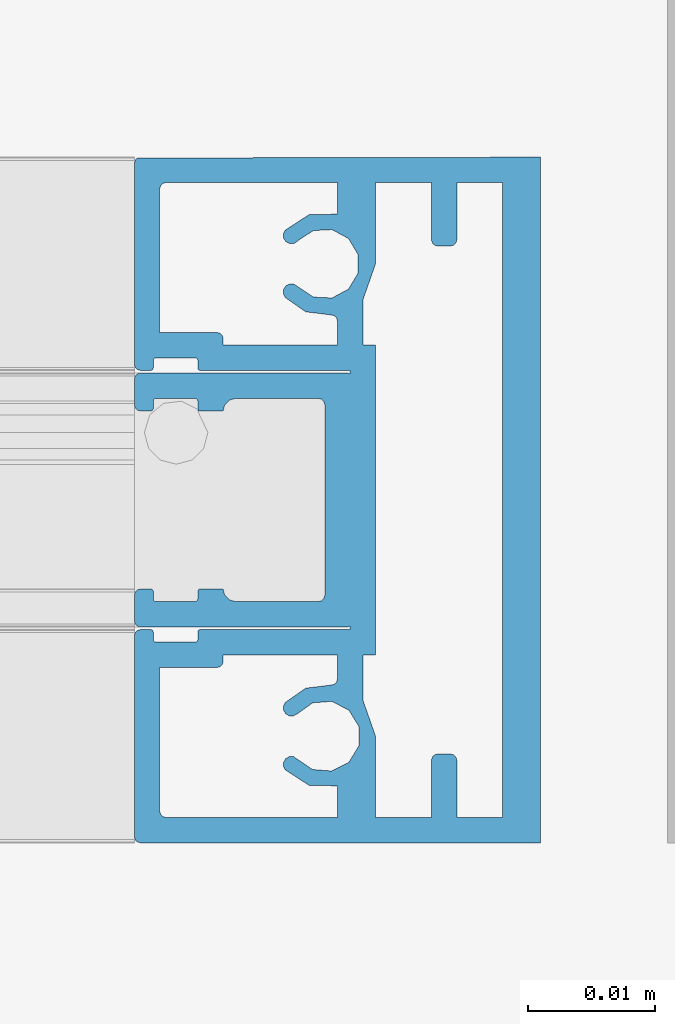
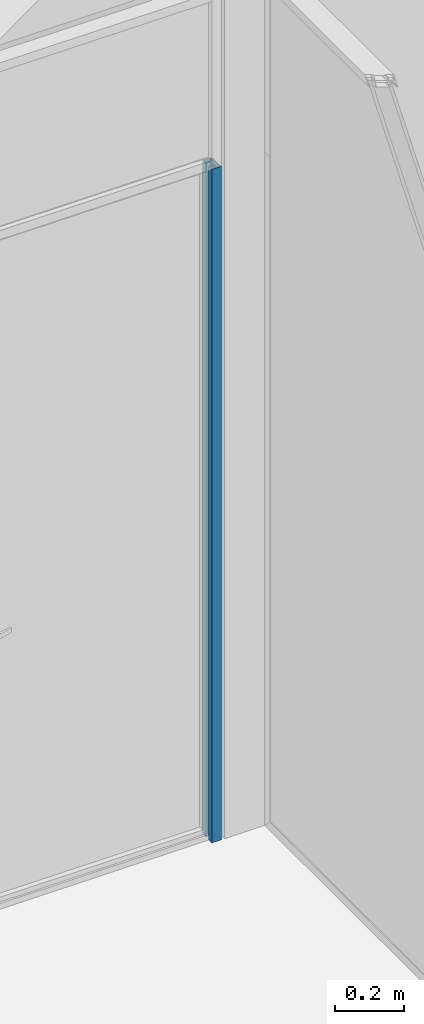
# One storey, part 40 of 387: 1 building element part, 2 elements without a shape of their own.
"""IFC2X3 building model written with IfcOpenShell, lengths in millimetres."""

import ifcopenshell
import ifcopenshell.guid

model = None  # the IFC model being written
_history = None  # IfcOwnerHistory: only IFC2X3 demands one
_inside = {}  # id of a spatial element -> (the spatial element, [elements in it])
_under = {}  # id of a project, library or spatial element -> (it, [spatial elements below it])
_declared = {}  # id of a project -> (the project, [libraries it declares])
_typed = {}  # id of a type object -> (the type object, [elements of that type])
_made_of = {}  # id of a material, layer set ... -> (it, [elements and type objects made of it])


def new_model(schema):
    """Start an empty IFC model of exactly this schema.

    Asked for "IFC4X3", IfcOpenShell would pick the latest addendum, in which some entities
    have other attributes; the version numbers below select the first issue.
    IFC2X3 requires an IfcOwnerHistory on every rooted entity: one is made here for all.
    """
    global model, _history
    if schema == "IFC4X3":
        model = ifcopenshell.file(schema_version=(4, 3, 0, 0))
    else:
        model = ifcopenshell.file(schema=schema)
    _inside.clear()
    _under.clear()
    _declared.clear()
    _typed.clear()
    _made_of.clear()
    _history = None
    if model.schema == "IFC2X3":
        org = make("IfcOrganization", Name="unknown")
        user = make(
            "IfcPersonAndOrganization",
            ThePerson=make("IfcPerson", FamilyName="unknown"),
            TheOrganization=org,
        )
        app = make(
            "IfcApplication",
            ApplicationDeveloper=org,
            Version="unknown",
            ApplicationFullName="unknown",
            ApplicationIdentifier="unknown",
        )
        _history = make(
            "IfcOwnerHistory",
            OwningUser=user,
            OwningApplication=app,
            ChangeAction="ADDED",
            CreationDate=0,
        )
    return model


def make(cls, **values):
    """One entity of the class cls with the attributes given. An attribute that is None is left unset."""
    return model.create_entity(
        cls, **{name: value for name, value in values.items() if value is not None}
    )


def entity(cls, *values):
    """Any entity or typed value of the class cls, its attributes in the order of the schema. None: left unset."""
    e = model.create_entity(cls)
    for i, value in enumerate(values):
        if value is not None:
            e[i] = value
    return e


def rooted(cls, **values):
    """An entity with a GlobalId (a new one), such as an element, a storey or a relation."""
    return make(cls, GlobalId=ifcopenshell.guid.new(), OwnerHistory=_history, **values)


def si_unit(unit_type, name, prefix=None):
    """IfcSIUnit, for example si_unit("LENGTHUNIT", "METRE", prefix="MILLI")."""
    return make("IfcSIUnit", UnitType=unit_type, Prefix=prefix, Name=name)


def converted_unit(unit_type, name, factor, base, dimensions=None, offset=None):
    """IfcConversionBasedUnit, such as the inch: factor (a typed value) times the base unit."""
    return make(
        "IfcConversionBasedUnit"
        if offset is None
        else "IfcConversionBasedUnitWithOffset",
        ConversionOffset=offset,
        Dimensions=None
        if dimensions is None
        else entity("IfcDimensionalExponents", *dimensions),
        UnitType=unit_type,
        Name=name,
        ConversionFactor=make(
            "IfcMeasureWithUnit", ValueComponent=factor, UnitComponent=base
        ),
    )


def derived_unit(unit_type, elements):
    """IfcDerivedUnit: a product of units, each with its exponent."""
    return make(
        "IfcDerivedUnit",
        Elements=[
            make("IfcDerivedUnitElement", Unit=unit, Exponent=power)
            for unit, power in elements
        ],
        UnitType=unit_type,
    )


def money_unit(currency):
    """IfcMonetaryUnit."""
    return make("IfcMonetaryUnit", Currency=currency)


def assignment(units):
    """IfcUnitAssignment: the units of a project."""
    return None if units is None else make("IfcUnitAssignment", Units=units)


def point(xyz):
    """IfcCartesianPoint."""
    return None if xyz is None else make("IfcCartesianPoint", Coordinates=xyz)


def direction(xyz):
    """IfcDirection."""
    return None if xyz is None else make("IfcDirection", DirectionRatios=xyz)


def frame(location, z_axis=None, x_axis=None):
    """IfcAxis2Placement3D, a coordinate frame: its origin and axes. An axis left out is left unset."""
    return make(
        "IfcAxis2Placement3D",
        Location=point(location),
        Axis=direction(z_axis),
        RefDirection=direction(x_axis),
    )


def origin_with_axes():
    """The frame at (0, 0, 0) with the z axis (0, 0, 1) and the x axis (1, 0, 0) written out."""
    return frame((0.0, 0.0, 0.0), z_axis=(0.0, 0.0, 1.0), x_axis=(1.0, 0.0, 0.0))


def place(relative_to, where):
    """IfcLocalPlacement: puts the frame where relative to a parent placement (None: the world)."""
    return make(
        "IfcLocalPlacement", PlacementRelTo=relative_to, RelativePlacement=where
    )


def context(
    kind, dimensions, precision=None, world=None, true_north=None, identifier=None
):
    """IfcGeometricRepresentationContext, for example the 3D "Model" context."""
    return make(
        "IfcGeometricRepresentationContext",
        ContextIdentifier=identifier,
        ContextType=kind,
        CoordinateSpaceDimension=dimensions,
        Precision=precision,
        WorldCoordinateSystem=world,
        TrueNorth=true_north,
    )


def subcontext(parent, identifier, kind, view, scale=None):
    """IfcGeometricRepresentationSubContext, for example "Body" below "Model"."""
    return make(
        "IfcGeometricRepresentationSubContext",
        ContextIdentifier=identifier,
        ContextType=kind,
        ParentContext=parent,
        TargetScale=scale,
        TargetView=view,
    )


def project(units=None, contexts=None):
    """IfcProject with its units and contexts."""
    return rooted(
        "IfcProject",
        Name="project",
        RepresentationContexts=contexts,
        UnitsInContext=assignment(units),
    )


def spatial(cls, under=None, at=None, **own):
    """A site, building, storey or space (cls), placed at a placement, below another one or the project."""
    s = rooted(cls, ObjectPlacement=at, **own)
    if under is not None:
        _under.setdefault(under.id(), (under, []))[1].append(s)
    return s


def faces_of(points, faces, orient=None, outer=None):
    """IfcFace entities. A face is a list of loops; a loop is a list of indices into points, from 0.

    orient and outer hold one flag for each loop. By default every Orientation is true, the
    first loop of a face is its IfcFaceOuterBound and the others are IfcFaceBound.
    """
    made = []
    for i, loops in enumerate(faces):
        bounds = []
        for j, loop in enumerate(loops):
            is_outer = j == 0 if outer is None else outer[i][j]
            bounds.append(
                make(
                    "IfcFaceOuterBound" if is_outer else "IfcFaceBound",
                    Bound=make("IfcPolyLoop", Polygon=[points[k] for k in loop]),
                    Orientation=True if orient is None else orient[i][j],
                )
            )
        made.append(make("IfcFace", Bounds=bounds))
    return made


def faceted_brep(points, faces, orient=None, outer=None, voids=None):
    """IfcFacetedBrep: a solid bounded by flat faces; with voids (closed shells), ...WithVoids."""
    shared = [point(p) for p in points]
    hull = make("IfcClosedShell", CfsFaces=faces_of(shared, faces, orient, outer))
    if voids is None:
        return make("IfcFacetedBrep", Outer=hull)
    return make(
        "IfcFacetedBrepWithVoids",
        Outer=hull,
        Voids=[
            make(cls, CfsFaces=faces_of(shared, fs, o, b)) for cls, fs, o, b in voids
        ],
    )


def shape(context_of_items, identifier, shape_type, items):
    """IfcShapeRepresentation: the items that make up one representation, for example the "Body"."""
    return make(
        "IfcShapeRepresentation",
        ContextOfItems=context_of_items,
        RepresentationIdentifier=identifier,
        RepresentationType=shape_type,
        Items=items,
    )


def source(mapping_origin, context_of_items, identifier, shape_type, items):
    """IfcRepresentationMap: a shape defined once, which mapped items show again and again."""
    return make(
        "IfcRepresentationMap",
        MappingOrigin=mapping_origin,
        MappedRepresentation=shape(context_of_items, identifier, shape_type, items),
    )


def transform(
    local_origin,
    x_axis=None,
    y_axis=None,
    z_axis=None,
    scale=None,
    scale2=None,
    scale3=None,
    uniform=True,
):
    """IfcCartesianTransformationOperator3D, or its non-uniform kind. x_axis, y_axis, z_axis: its Axis1, 2, 3."""
    if uniform:
        return make(
            "IfcCartesianTransformationOperator3D",
            Axis1=direction(x_axis),
            Axis2=direction(y_axis),
            LocalOrigin=point(local_origin),
            Scale=scale,
            Axis3=direction(z_axis),
        )
    return make(
        "IfcCartesianTransformationOperator3DnonUniform",
        Axis1=direction(x_axis),
        Axis2=direction(y_axis),
        LocalOrigin=point(local_origin),
        Scale=scale,
        Axis3=direction(z_axis),
        Scale2=scale2,
        Scale3=scale3,
    )


def mapped(mapping_source, mapping_target):
    """IfcMappedItem: shows the shape of a source again, moved by a transform."""
    return make(
        "IfcMappedItem", MappingSource=mapping_source, MappingTarget=mapping_target
    )


def material(Name=None, Category=None):
    """IfcMaterial."""
    return make("IfcMaterial", Name=Name, Category=Category)


def made_of(thing, what):
    """Note that an element or type object is made of a material, layer set ...; save() writes the relation."""
    if what is not None:
        _made_of.setdefault(what.id(), (what, []))[1].append(thing)
    return thing


def type_object(cls, material=None, **own):
    """A type object (cls), such as IfcWallType, which elements share."""
    return made_of(rooted(cls, **own), material)


def element(
    cls,
    number,
    at=None,
    inside=None,
    cuts=None,
    type_object=None,
    material=None,
    context=None,
    identifier="Body",
    shape_type=None,
    held_by="IfcProductDefinitionShape",
    body=None,
    shapes=None,
    **own,
):
    """One element of the class cls, such as IfcWall. Its Tag is "e" and its number.

    at: its placement. inside: the storey or other place that contains it. cuts: it is an
    opening in that element (IfcRelVoidsElement). A single representation is given by context,
    identifier, shape_type and body (its items); several are given by shapes. held_by: the class
    of the entity that holds the representations. save() writes the other relations.
    """
    e = rooted(cls, Tag="e%d" % number, ObjectPlacement=at, **own)
    if body is not None:
        shapes = [shape(context, identifier, shape_type, body)]
    if shapes is not None:
        e.Representation = make(held_by, Representations=shapes)
    if inside is not None:
        _inside.setdefault(inside.id(), (inside, []))[1].append(e)
    if cuts is not None:
        rooted(
            "IfcRelVoidsElement", RelatingBuildingElement=cuts, RelatedOpeningElement=e
        )
    if type_object is not None:
        _typed.setdefault(type_object.id(), (type_object, []))[1].append(e)
    return made_of(e, material)


def aggregate(whole, parts):
    """IfcRelAggregates: a whole, such as a stair, and the parts it consists of."""
    return rooted("IfcRelAggregates", RelatingObject=whole, RelatedObjects=parts)


def save(model, path):
    """Write the relations noted so far, then the file.

    IfcRelAggregates (storeys below a building ...), IfcRelContainedInSpatialStructure (elements
    in a storey), IfcRelDefinesByType, IfcRelAssociatesMaterial and IfcRelDeclares: one each for
    every whole, place, type object, material and project.
    """
    for whole, parts in _under.values():
        aggregate(whole, parts)
    for where, things in _inside.values():
        rooted(
            "IfcRelContainedInSpatialStructure",
            RelatedElements=things,
            RelatingStructure=where,
        )
    for kind, things in _typed.values():
        rooted("IfcRelDefinesByType", RelatedObjects=things, RelatingType=kind)
    for what, things in _made_of.values():
        rooted("IfcRelAssociatesMaterial", RelatedObjects=things, RelatingMaterial=what)
    for by, libraries in _declared.values():
        rooted("IfcRelDeclares", RelatingContext=by, RelatedDefinitions=libraries)
    model.write(path)


model = new_model("IFC2X3")

# Units and contexts
model_context = context("Model", 3, precision=0.01, world=origin_with_axes(), true_north=direction((0.0, 1.0)))
body_context = subcontext(model_context, "Body", "Model", "MODEL_VIEW")
ifc_project = project(units=[si_unit("LENGTHUNIT", "METRE", prefix="MILLI"), si_unit("AREAUNIT", "SQUARE_METRE"), si_unit("VOLUMEUNIT", "CUBIC_METRE"), converted_unit("PLANEANGLEUNIT", "DEGREE", entity("IfcPlaneAngleMeasure", 0.0174532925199), si_unit("PLANEANGLEUNIT", "RADIAN"), dimensions=[0, 0, 0, 0, 0, 0, 0]), si_unit("SOLIDANGLEUNIT", "STERADIAN"), money_unit("EUR"), converted_unit("TIMEUNIT", "Year", entity("IfcTimeMeasure", 31556926.0), si_unit("TIMEUNIT", "SECOND"), dimensions=[0, 0, 1, 0, 0, 0, 0]), si_unit("MASSUNIT", "GRAM", prefix="KILO"), si_unit("THERMODYNAMICTEMPERATUREUNIT", "DEGREE_CELSIUS"), si_unit("LUMINOUSINTENSITYUNIT", "LUMEN"), si_unit("ENERGYUNIT", "JOULE", prefix="MEGA"), derived_unit("THERMALCONDUCTANCEUNIT", [(si_unit("POWERUNIT", "WATT"), 1), (si_unit("LENGTHUNIT", "METRE"), -1), (si_unit("THERMODYNAMICTEMPERATUREUNIT", "KELVIN"), -1)]), derived_unit("SPECIFICHEATCAPACITYUNIT", [(si_unit("ENERGYUNIT", "JOULE"), 1), (si_unit("MASSUNIT", "GRAM", prefix="KILO"), -1), (si_unit("THERMODYNAMICTEMPERATUREUNIT", "KELVIN"), -1)]), derived_unit("MASSDENSITYUNIT", [(si_unit("MASSUNIT", "GRAM", prefix="KILO"), 1), (si_unit("VOLUMEUNIT", "CUBIC_METRE"), -1)])], contexts=[model_context])

# Site, building, storey
site_placement = place(None, origin_with_axes())
site = spatial("IfcSite", under=ifc_project, at=site_placement, Name="Puškini 31, Narva", CompositionType="ELEMENT")
building_placement = place(site_placement, origin_with_axes())
building = spatial("IfcBuilding", under=site, at=building_placement, Name="Narva Riigigümnaasium", CompositionType="ELEMENT")
storey_placement = place(building_placement, frame((0.0, 0.0, 2640.0), z_axis=(0.0, 0.0, 1.0), x_axis=(1.0, 0.0, 0.0)))
storey = spatial("IfcBuildingStorey", under=building, at=storey_placement, Name="2.korrus +2.64", CompositionType="ELEMENT", Elevation=2640.0)

# Curtain wall, member, building element part
curtain_wall_type = type_object("IfcCurtainWallType", Name="Curtain Wall Type", PredefinedType="NOTDEFINED")
curtain_wall_placement = place(storey_placement, frame((29819.999977, 163516.999995, -2.6516426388e-05), z_axis=(0.0, 0.0, 1.0), x_axis=(1.0, 0.0, 0.0)))
curtain_wall = element("IfcCurtainWall", 1, at=curtain_wall_placement, inside=storey, type_object=curtain_wall_type, Name="G-SKLF-46")
member_type = type_object("IfcMemberType", Name="32 x 27", PredefinedType="MULLION")
member_placement = place(curtain_wall_placement, frame((370.000000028, -1.03170805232e-08, 0.0), z_axis=(0.0, 0.0, 1.0), x_axis=(1.0, 0.0, 0.0)))
member = element("IfcMember", 2, at=member_placement, type_object=member_type, Name="G-SKLF-46-raam", ObjectType="MULLION")
aggregate(curtain_wall, [member])
ifc_material = material(Name="ET-04_Alumiinium")
shared_shape = source(origin_with_axes(), body_context, "Body", "Brep", [
    faceted_brep([(-31.7500000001, 26.9330127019, 0.0), (-31.7500000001, 26.9330127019, 2400.00000922), (0.0, 27.0, 2400.00000922), (0.0, 27.0, 0.0), (-31.933012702, 26.75, 0.0), (-31.933012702, 26.75, 2400.00000922), (-32.0000000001, 26.5, 2400.00000922), (-32.0, 10.7, 2400.00000922), (-31.9330127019, 10.45, 2400.00000922), (-31.75, 10.2669872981, 2400.00000922), (-31.5, 10.2, 2400.00000922), (-30.7, 10.2, 2400.00000922), (-30.6, 10.2267949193, 2400.00000922), (-30.5267949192, 10.3, 2400.00000922), (-30.5, 10.4, 2400.00000922), (-30.5, 11.0, 2400.00000922), (-30.4732050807, 11.1, 2400.00000922), (-30.4, 11.1732050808, 2400.00000922), (-30.3, 11.2, 2400.00000922), (-27.2, 11.2, 2400.00000922), (-27.1, 11.1732050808, 2400.00000922), (-27.0267949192, 11.1, 2400.00000922), (-27.0, 11.0, 2400.00000922), (-27.0, 10.4, 2400.00000922), (-26.9732050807, 10.3, 2400.00000922), (-26.9, 10.2267949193, 2400.00000922), (-26.8, 10.2, 2400.00000922), (-15.0, 10.2, 2400.00000922), (-15.0, 9.79999999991, 2400.00000922), (-15.0, -9.80000000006, 2400.00000922), (-15.0, -10.2, 2400.00000922), (-26.7999999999, -10.2000000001, 2400.00000922), (-26.8999999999, -10.2267949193, 2400.00000922), (-26.9732050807, -10.3000000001, 2400.00000922), (-27.0, -10.4000000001, 2400.00000922), (-27.0, -11.0, 2400.00000922), (-27.0267949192, -11.1, 2400.00000922), (-27.1, -11.1732050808, 2400.00000922), (-27.2, -11.2, 2400.00000922), (-30.3, -11.2, 2400.00000922), (-30.4, -11.1732050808, 2400.00000922), (-30.4732050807, -11.1, 2400.00000922), (-30.5, -11.0, 2400.00000922), (-30.5, -10.4, 2400.00000922), (-30.5267949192, -10.3, 2400.00000922), (-30.6, -10.2267949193, 2400.00000922), (-30.7, -10.2, 2400.00000922), (-31.5, -10.2, 2400.00000922), (-31.75, -10.2669872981, 2400.00000922), (-31.9330127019, -10.45, 2400.00000922), (-32.0, -10.7000000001, 2400.00000922), (-32.0, -26.5, 2400.00000922), (-31.9330127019, -26.75, 2400.00000922), (-31.75, -26.9330127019, 2400.00000922), (-31.5, -27.0, 2400.00000922), (0.0, -27.0, 2400.00000922), (-3.0, -25.0, 2400.00000922), (-6.60000000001, -25.0, 2400.00000922), (-6.60000000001, -20.5, 2400.00000922), (-6.66698729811, -20.25, 2400.00000922), (-6.85, -20.0669872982, 2400.00000922), (-7.10000000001, -20.0000000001, 2400.00000922), (-8.09999999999, -20.0, 2400.00000922), (-8.34999999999, -20.0669872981, 2400.00000922), (-8.53301270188, -20.25, 2400.00000922), (-8.59999999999, -20.5, 2400.00000922), (-8.59999999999, -25.0, 2400.00000922), (-13.0, -25.0, 2400.00000922), (-13.0, -18.6, 2400.00000922), (-13.8901098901, -16.0667028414, 2400.00000922), (-14.0, -15.7539501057, 2400.00000922), (-14.0, -12.2, 2400.00000922), (-13.0, -12.2, 2400.00000922), (-13.0, 12.2, 2400.00000922), (-14.0, 12.2, 2400.00000922), (-14.0, 15.7539501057, 2400.00000922), (-13.8901098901, 16.0667028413, 2400.00000922), (-13.0, 18.6, 2400.00000922), (-13.0, 25.0, 2400.00000922), (-8.59999999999, 25.0, 2400.00000922), (-8.59999999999, 20.5, 2400.00000922), (-8.53301270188, 20.25, 2400.00000922), (-8.34999999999, 20.0669872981, 2400.00000922), (-8.09999999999, 20.0, 2400.00000922), (-7.1, 20.0, 2400.00000922), (-6.85, 20.0669872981, 2400.00000922), (-6.66698729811, 20.25, 2400.00000922), (-6.6, 20.5, 2400.00000922), (-6.6, 25.0, 2400.00000922), (-3.00000000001, 25.0, 2400.00000922), (-19.476186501, -20.1957226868, 2400.00000922), (-19.7983760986, -20.2065593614, 2400.00000922), (-20.0757343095, -20.3708639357, 2400.00000922), (-20.2400388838, -20.6482221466, 2400.00000922), (-20.2508755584, -20.9704117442, 2400.00000922), (-20.1055788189, -21.2581832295, 2400.00000922), (-18.2324976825, -22.4735254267, 2400.00000922), (-16.0, -22.5115214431, 2400.00000922), (-16.0, -25.0, 2400.00000922), (-29.4999999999, -25.0, 2400.00000922), (-29.7499999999, -24.9330127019, 2400.00000922), (-29.9330127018, -24.75, 2400.00000922), (-29.9999999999, -24.5, 2400.00000922), (-30.0, -13.2, 2400.00000922), (-25.5, -13.2, 2400.00000922), (-25.25, -13.1330127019, 2400.00000922), (-25.0669872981, -12.95, 2400.00000922), (-25.0, -12.7, 2400.00000922), (-25.0, -12.2, 2400.00000922), (-16.0, -12.2, 2400.00000922), (-16.0, -14.0833640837, 2400.00000922), (-16.0774356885, -14.3506455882, 2400.00000922), (-16.2857576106, -14.5351385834, 2400.00000922), (-16.5604395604, -14.5796977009, 2400.00000922), (-18.5025683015, -14.8194517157, 2400.00000922), (-20.1055788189, -15.9418167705, 2400.00000922), (-20.2539421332, -16.2300731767, 2400.00000922), (-20.2446330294, -16.5541360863, 2400.00000922), (-20.0799669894, -16.8334003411, 2400.00000922), (-19.8009019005, -16.9984036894, 2400.00000922), (-19.4768504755, -17.0081043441, 2400.00000922), (-19.1884150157, -16.8600894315, 2400.00000922), (-17.9594363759, -15.9748438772, 2400.00000922), (-16.4491363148, -15.8606426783, 2400.00000922), (-15.101017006, -16.5510212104, 2400.00000922), (-14.3109559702, -17.8432486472, 2400.00000922), (-14.3109559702, -19.3578602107, 2400.00000922), (-15.101017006, -20.6500876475, 2400.00000922), (-16.4491363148, -21.3404661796, 2400.00000922), (-17.9594363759, -21.2262649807, 2400.00000922), (-19.4040597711, 16.9891590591, 2400.00000922), (-19.7431334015, 17.0156698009, 2400.00000922), (-20.0491908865, 16.8673371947, 2400.00000922), (-20.2384633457, 16.5847603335, 2400.00000922), (-20.2591463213, 16.2452813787, 2400.00000922), (-20.1055788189, 15.9418167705, 2400.00000922), (-18.5025683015, 14.8194517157, 2400.00000922), (-16.5604395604, 14.5796977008, 2400.00000922), (-16.2857576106, 14.5351385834, 2400.00000922), (-16.0774356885, 14.3506455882, 2400.00000922), (-16.0, 14.0833640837, 2400.00000922), (-16.0, 12.2, 2400.00000922), (-25.0, 12.2, 2400.00000922), (-25.0, 12.7, 2400.00000922), (-25.0669872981, 12.95, 2400.00000922), (-25.25, 13.1330127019, 2400.00000922), (-25.5, 13.2, 2400.00000922), (-30.0, 13.2, 2400.00000922), (-30.0, 24.5, 2400.00000922), (-29.9330127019, 24.75, 2400.00000922), (-29.75, 24.9330127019, 2400.00000922), (-29.5, 25.0, 2400.00000922), (-16.0, 25.0, 2400.00000922), (-16.0, 22.5115214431, 2400.00000922), (-18.2324976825, 22.4735254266, 2400.00000922), (-20.1055788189, 21.2581832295, 2400.00000922), (-20.2586063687, 20.9548173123, 2400.00000922), (-20.2376817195, 20.6156853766, 2400.00000922), (-20.0485211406, 20.3334326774, 2400.00000922), (-19.7428001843, 20.185166, 2400.00000922), (-19.4040367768, 20.2113893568, 2400.00000922), (-19.1247754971, 20.4049389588, 2400.00000922), (-17.9010883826, 21.2200171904, 2400.00000922), (-16.4324884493, 21.290564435, 2400.00000922), (-15.1363081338, 20.5965332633, 2400.00000922), (-14.3808833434, 19.3351466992, 2400.00000922), (-14.3808833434, 17.8648533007, 2400.00000922), (-15.1363081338, 16.6034667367, 2400.00000922), (-16.4324884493, 15.9094355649, 2400.00000922), (-17.9010883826, 15.9799828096, 2400.00000922), (0.0, -27.0, 0.0), (-31.5, -27.0, 0.0), (-31.75, -26.9330127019, 0.0), (-31.9330127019, -26.75, 0.0), (-32.0, -26.5, 0.0), (-32.0, -10.7000000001, 0.0), (-31.9330127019, -10.45, 0.0), (-31.75, -10.2669872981, 0.0), (-31.5, -10.2, 0.0), (-30.7, -10.2, 0.0), (-30.6, -10.2267949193, 0.0), (-30.5267949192, -10.3, 0.0), (-30.5, -10.4, 0.0), (-30.5, -11.0, 0.0), (-30.4732050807, -11.1, 0.0), (-30.4, -11.1732050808, 0.0), (-30.3, -11.2, 0.0), (-27.2, -11.2, 0.0), (-27.1, -11.1732050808, 0.0), (-27.0267949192, -11.1, 0.0), (-27.0, -11.0, 0.0), (-27.0, -10.4000000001, 0.0), (-26.9732050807, -10.3000000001, 0.0), (-26.8999999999, -10.2267949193, 0.0), (-26.7999999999, -10.2000000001, 0.0), (-15.0, -10.2, 0.0), (-15.0, -9.80000000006, 0.0), (-15.0, 9.79999999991, 0.0), (-15.0, 10.2, 0.0), (-26.8, 10.2, 0.0), (-26.9, 10.2267949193, 0.0), (-26.9732050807, 10.3, 0.0), (-27.0, 10.4, 0.0), (-27.0, 11.0, 0.0), (-27.0267949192, 11.1, 0.0), (-27.1, 11.1732050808, 0.0), (-27.2, 11.2, 0.0), (-30.3, 11.2, 0.0), (-30.4, 11.1732050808, 0.0), (-30.4732050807, 11.1, 0.0), (-30.5, 11.0, 0.0), (-30.5, 10.4, 0.0), (-30.5267949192, 10.3, 0.0), (-30.6, 10.2267949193, 0.0), (-30.7, 10.2, 0.0), (-31.5, 10.2, 0.0), (-31.75, 10.2669872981, 0.0), (-31.9330127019, 10.45, 0.0), (-32.0, 10.7, 0.0), (-32.0000000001, 26.5, 0.0), (-3.0, -25.0, 0.0), (-3.00000000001, 25.0, 0.0), (-6.6, 25.0, 0.0), (-6.6, 20.5, 0.0), (-6.66698729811, 20.25, 0.0), (-6.85, 20.0669872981, 0.0), (-7.1, 20.0, 0.0), (-8.09999999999, 20.0, 0.0), (-8.34999999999, 20.0669872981, 0.0), (-8.53301270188, 20.25, 0.0), (-8.59999999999, 20.5, 0.0), (-8.59999999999, 25.0, 0.0), (-13.0, 25.0, 0.0), (-13.0, 18.6, 0.0), (-13.8901098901, 16.0667028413, 0.0), (-14.0, 15.7539501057, 0.0), (-14.0, 12.2, 0.0), (-13.0, 12.2, 0.0), (-13.0, -12.2, 0.0), (-14.0, -12.2, 0.0), (-14.0, -15.7539501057, 0.0), (-13.8901098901, -16.0667028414, 0.0), (-13.0, -18.6, 0.0), (-13.0, -25.0, 0.0), (-8.59999999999, -25.0, 0.0), (-8.59999999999, -20.5, 0.0), (-8.53301270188, -20.25, 0.0), (-8.34999999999, -20.0669872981, 0.0), (-8.09999999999, -20.0, 0.0), (-7.10000000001, -20.0000000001, 0.0), (-6.85, -20.0669872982, 0.0), (-6.66698729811, -20.25, 0.0), (-6.60000000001, -20.5, 0.0), (-6.60000000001, -25.0, 0.0), (-19.476186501, -20.1957226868, 0.0), (-17.9594363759, -21.2262649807, 0.0), (-16.4491363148, -21.3404661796, 0.0), (-15.101017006, -20.6500876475, 0.0), (-14.3109559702, -19.3578602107, 0.0), (-14.3109559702, -17.8432486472, 0.0), (-15.101017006, -16.5510212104, 0.0), (-16.4491363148, -15.8606426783, 0.0), (-17.9594363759, -15.9748438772, 0.0), (-19.1884150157, -16.8600894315, 0.0), (-19.4768504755, -17.0081043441, 0.0), (-19.8009019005, -16.9984036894, 0.0), (-20.0799669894, -16.8334003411, 0.0), (-20.2446330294, -16.5541360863, 0.0), (-20.2539421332, -16.2300731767, 0.0), (-20.1055788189, -15.9418167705, 0.0), (-18.5025683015, -14.8194517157, 0.0), (-16.5604395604, -14.5796977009, 0.0), (-16.2857576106, -14.5351385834, 0.0), (-16.0774356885, -14.3506455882, 0.0), (-16.0, -14.0833640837, 0.0), (-16.0, -12.2, 0.0), (-25.0, -12.2, 0.0), (-25.0, -12.7, 0.0), (-25.0669872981, -12.95, 0.0), (-25.25, -13.1330127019, 0.0), (-25.5, -13.2, 0.0), (-30.0, -13.2, 0.0), (-29.9999999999, -24.5, 0.0), (-29.9330127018, -24.75, 0.0), (-29.7499999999, -24.9330127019, 0.0), (-29.4999999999, -25.0, 0.0), (-16.0, -25.0, 0.0), (-16.0, -22.5115214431, 0.0), (-18.2324976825, -22.4735254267, 0.0), (-20.1055788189, -21.2581832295, 0.0), (-20.2508755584, -20.9704117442, 0.0), (-20.2400388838, -20.6482221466, 0.0), (-20.0757343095, -20.3708639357, 0.0), (-19.7983760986, -20.2065593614, 0.0), (-19.4040597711, 16.9891590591, 0.0), (-17.9010883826, 15.9799828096, 0.0), (-16.4324884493, 15.9094355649, 0.0), (-15.1363081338, 16.6034667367, 0.0), (-14.3808833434, 17.8648533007, 0.0), (-14.3808833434, 19.3351466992, 0.0), (-15.1363081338, 20.5965332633, 0.0), (-16.4324884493, 21.290564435, 0.0), (-17.9010883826, 21.2200171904, 0.0), (-19.1247754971, 20.4049389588, 0.0), (-19.4040367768, 20.2113893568, 0.0), (-19.7428001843, 20.185166, 0.0), (-20.0485211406, 20.3334326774, 0.0), (-20.2376817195, 20.6156853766, 0.0), (-20.2586063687, 20.9548173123, 0.0), (-20.1055788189, 21.2581832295, 0.0), (-18.2324976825, 22.4735254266, 0.0), (-16.0, 22.5115214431, 0.0), (-16.0, 25.0, 0.0), (-29.5, 25.0, 0.0), (-29.75, 24.9330127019, 0.0), (-29.9330127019, 24.75, 0.0), (-30.0, 24.5, 0.0), (-30.0, 13.2, 0.0), (-25.5, 13.2, 0.0), (-25.25, 13.1330127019, 0.0), (-25.0669872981, 12.95, 0.0), (-25.0, 12.7, 0.0), (-25.0, 12.2, 0.0), (-16.0, 12.2, 0.0), (-16.0, 14.0833640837, 0.0), (-16.0774356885, 14.3506455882, 0.0), (-16.2857576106, 14.5351385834, 0.0), (-16.5604395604, 14.5796977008, 0.0), (-18.5025683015, 14.8194517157, 0.0), (-20.1055788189, 15.9418167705, 0.0), (-20.2591463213, 16.2452813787, 0.0), (-20.2384633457, 16.5847603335, 0.0), (-20.0491908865, 16.8673371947, 0.0), (-19.7431334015, 17.0156698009, 0.0)], [[[0, 1, 2, 3]], [[4, 5, 1, 0]], [[1, 5, 6, 7, 8, 9, 10, 11, 12, 13, 14, 15, 16, 17, 18, 19, 20, 21, 22, 23, 24, 25, 26, 27, 28, 29, 30, 31, 32, 33, 34, 35, 36, 37, 38, 39, 40, 41, 42, 43, 44, 45, 46, 47, 48, 49, 50, 51, 52, 53, 54, 55, 2], [56, 57, 58, 59, 60, 61, 62, 63, 64, 65, 66, 67, 68, 69, 70, 71, 72, 73, 74, 75, 76, 77, 78, 79, 80, 81, 82, 83, 84, 85, 86, 87, 88, 89], [90, 91, 92, 93, 94, 95, 96, 97, 98, 99, 100, 101, 102, 103, 104, 105, 106, 107, 108, 109, 110, 111, 112, 113, 114, 115, 116, 117, 118, 119, 120, 121, 122, 123, 124, 125, 126, 127, 128, 129], [130, 131, 132, 133, 134, 135, 136, 137, 138, 139, 140, 141, 142, 143, 144, 145, 146, 147, 148, 149, 150, 151, 152, 153, 154, 155, 156, 157, 158, 159, 160, 161, 162, 163, 164, 165, 166, 167, 168, 169]], [[3, 2, 55, 170]], [[0, 3, 170, 171, 172, 173, 174, 175, 176, 177, 178, 179, 180, 181, 182, 183, 184, 185, 186, 187, 188, 189, 190, 191, 192, 193, 194, 195, 196, 197, 198, 199, 200, 201, 202, 203, 204, 205, 206, 207, 208, 209, 210, 211, 212, 213, 214, 215, 216, 217, 218, 219, 4], [220, 221, 222, 223, 224, 225, 226, 227, 228, 229, 230, 231, 232, 233, 234, 235, 236, 237, 238, 239, 240, 241, 242, 243, 244, 245, 246, 247, 248, 249, 250, 251, 252, 253], [254, 255, 256, 257, 258, 259, 260, 261, 262, 263, 264, 265, 266, 267, 268, 269, 270, 271, 272, 273, 274, 275, 276, 277, 278, 279, 280, 281, 282, 283, 284, 285, 286, 287, 288, 289, 290, 291, 292, 293], [294, 295, 296, 297, 298, 299, 300, 301, 302, 303, 304, 305, 306, 307, 308, 309, 310, 311, 312, 313, 314, 315, 316, 317, 318, 319, 320, 321, 322, 323, 324, 325, 326, 327, 328, 329, 330, 331, 332, 333]], [[219, 6, 5, 4]], [[218, 7, 6, 219]], [[217, 8, 7, 218]], [[216, 9, 8, 217]], [[215, 10, 9, 216]], [[214, 11, 10, 215]], [[213, 12, 11, 214]], [[212, 13, 12, 213]], [[211, 14, 13, 212]], [[210, 15, 14, 211]], [[209, 16, 15, 210]], [[208, 17, 16, 209]], [[207, 18, 17, 208]], [[206, 19, 18, 207]], [[205, 20, 19, 206]], [[204, 21, 20, 205]], [[203, 22, 21, 204]], [[202, 23, 22, 203]], [[201, 24, 23, 202]], [[200, 25, 24, 201]], [[199, 26, 25, 200]], [[198, 27, 26, 199]], [[197, 28, 27, 198]], [[196, 29, 28, 197]], [[195, 30, 29, 196]], [[194, 31, 30, 195]], [[193, 32, 31, 194]], [[192, 33, 32, 193]], [[191, 34, 33, 192]], [[190, 35, 34, 191]], [[189, 36, 35, 190]], [[188, 37, 36, 189]], [[187, 38, 37, 188]], [[186, 39, 38, 187]], [[185, 40, 39, 186]], [[184, 41, 40, 185]], [[183, 42, 41, 184]], [[182, 43, 42, 183]], [[181, 44, 43, 182]], [[180, 45, 44, 181]], [[179, 46, 45, 180]], [[178, 47, 46, 179]], [[177, 48, 47, 178]], [[176, 49, 48, 177]], [[175, 50, 49, 176]], [[174, 51, 50, 175]], [[173, 52, 51, 174]], [[172, 53, 52, 173]], [[171, 54, 53, 172]], [[170, 55, 54, 171]], [[253, 57, 56, 220]], [[252, 58, 57, 253]], [[251, 59, 58, 252]], [[250, 60, 59, 251]], [[249, 61, 60, 250]], [[248, 62, 61, 249]], [[247, 63, 62, 248]], [[246, 64, 63, 247]], [[245, 65, 64, 246]], [[244, 66, 65, 245]], [[243, 67, 66, 244]], [[242, 68, 67, 243]], [[241, 69, 68, 242]], [[240, 70, 69, 241]], [[239, 71, 70, 240]], [[238, 72, 71, 239]], [[237, 73, 72, 238]], [[236, 74, 73, 237]], [[235, 75, 74, 236]], [[234, 76, 75, 235]], [[233, 77, 76, 234]], [[232, 78, 77, 233]], [[231, 79, 78, 232]], [[230, 80, 79, 231]], [[229, 81, 80, 230]], [[228, 82, 81, 229]], [[227, 83, 82, 228]], [[226, 84, 83, 227]], [[225, 85, 84, 226]], [[224, 86, 85, 225]], [[223, 87, 86, 224]], [[222, 88, 87, 223]], [[221, 89, 88, 222]], [[220, 56, 89, 221]], [[293, 91, 90, 254]], [[292, 92, 91, 293]], [[291, 93, 92, 292]], [[290, 94, 93, 291]], [[289, 95, 94, 290]], [[288, 96, 95, 289]], [[287, 97, 96, 288]], [[286, 98, 97, 287]], [[285, 99, 98, 286]], [[284, 100, 99, 285]], [[283, 101, 100, 284]], [[282, 102, 101, 283]], [[281, 103, 102, 282]], [[280, 104, 103, 281]], [[279, 105, 104, 280]], [[278, 106, 105, 279]], [[277, 107, 106, 278]], [[276, 108, 107, 277]], [[275, 109, 108, 276]], [[274, 110, 109, 275]], [[273, 111, 110, 274]], [[272, 112, 111, 273]], [[271, 113, 112, 272]], [[270, 114, 113, 271]], [[269, 115, 114, 270]], [[268, 116, 115, 269]], [[267, 117, 116, 268]], [[266, 118, 117, 267]], [[265, 119, 118, 266]], [[264, 120, 119, 265]], [[263, 121, 120, 264]], [[262, 122, 121, 263]], [[261, 123, 122, 262]], [[260, 124, 123, 261]], [[259, 125, 124, 260]], [[258, 126, 125, 259]], [[257, 127, 126, 258]], [[256, 128, 127, 257]], [[255, 129, 128, 256]], [[254, 90, 129, 255]], [[333, 131, 130, 294]], [[332, 132, 131, 333]], [[331, 133, 132, 332]], [[330, 134, 133, 331]], [[329, 135, 134, 330]], [[328, 136, 135, 329]], [[327, 137, 136, 328]], [[326, 138, 137, 327]], [[325, 139, 138, 326]], [[324, 140, 139, 325]], [[323, 141, 140, 324]], [[322, 142, 141, 323]], [[321, 143, 142, 322]], [[320, 144, 143, 321]], [[319, 145, 144, 320]], [[318, 146, 145, 319]], [[317, 147, 146, 318]], [[316, 148, 147, 317]], [[315, 149, 148, 316]], [[314, 150, 149, 315]], [[313, 151, 150, 314]], [[312, 152, 151, 313]], [[311, 153, 152, 312]], [[310, 154, 153, 311]], [[309, 155, 154, 310]], [[308, 156, 155, 309]], [[307, 157, 156, 308]], [[306, 158, 157, 307]], [[305, 159, 158, 306]], [[304, 160, 159, 305]], [[303, 161, 160, 304]], [[302, 162, 161, 303]], [[301, 163, 162, 302]], [[300, 164, 163, 301]], [[299, 165, 164, 300]], [[298, 166, 165, 299]], [[297, 167, 166, 298]], [[296, 168, 167, 297]], [[295, 169, 168, 296]], [[294, 130, 169, 295]]]),
    faceted_brep([(-15.0267949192, 9.89999999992, 0.0), (-15.0267949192, 9.89999999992, 2400.00000922), (-15.0, -9.80000000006, 2400.00000922), (-15.0, -9.80000000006, 0.0), (-15.1, 9.97320508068, 0.0), (-15.1, 9.97320508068, 2400.00000922), (-15.2, 9.99999999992, 2400.00000922), (-31.5, 9.99999999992, 2400.00000922), (-31.75, 9.93301270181, 2400.00000922), (-31.9330127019, 9.74999999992, 2400.00000922), (-32.0, 9.49999999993, 2400.00000922), (-32.0, 7.49999999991, 2400.00000922), (-31.9330127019, 7.24999999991, 2400.00000922), (-31.75, 7.06698729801, 2400.00000922), (-31.5, 6.99999999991, 2400.00000922), (-30.7, 6.99999999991, 2400.00000922), (-30.6, 7.02679491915, 2400.00000922), (-30.5267949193, 7.09999999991, 2400.00000922), (-30.5, 7.19999999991, 2400.00000922), (-30.5, 7.79999999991, 2400.00000922), (-30.4732050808, 7.89999999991, 2400.00000922), (-30.4, 7.97320508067, 2400.00000922), (-30.3, 7.99999999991, 2400.00000922), (-27.2, 7.99999999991, 2400.00000922), (-27.1, 7.97320508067, 2400.00000922), (-27.0267949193, 7.89999999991, 2400.00000922), (-27.0, 7.7999999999, 2400.00000922), (-27.0, 7.14458303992, 2400.00000922), (-27.0, 6.99999999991, 2400.00000922), (-26.856872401, 6.99999999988, 2400.00000922), (-25.0092559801, 6.99999999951, 2400.00000922), (-24.8752813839, 7.49999999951, 2400.00000922), (-24.5092559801, 7.8660254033, 2400.00000922), (-24.0092559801, 7.99999999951, 2400.00000922), (-17.5, 7.99999999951, 2400.00000922), (-17.25, 7.9330127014, 2400.00000922), (-17.0669872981, 7.74999999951, 2400.00000922), (-17.0, 7.4999999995, 2400.00000922), (-17.0, -7.49999999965, 2400.00000922), (-17.0669872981, -7.74999999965, 2400.00000922), (-17.25, -7.93301270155, 2400.00000922), (-17.5, -7.99999999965, 2400.00000922), (-24.0092559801, -7.99999999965, 2400.00000922), (-24.5092559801, -7.86602540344, 2400.00000922), (-24.8752813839, -7.49999999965, 2400.00000922), (-25.0092559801, -6.99999999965, 2400.00000922), (-26.8, -7.0000000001, 2400.00000922), (-26.9, -7.02679491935, 2400.00000922), (-26.9732050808, -7.10000000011, 2400.00000922), (-27.0, -7.20000000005, 2400.00000922), (-27.0, -7.80000000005, 2400.00000922), (-27.0267949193, -7.90000000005, 2400.00000922), (-27.1, -7.97320508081, 2400.00000922), (-27.2, -8.00000000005, 2400.00000922), (-30.3, -8.00000000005, 2400.00000922), (-30.4, -7.97320508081, 2400.00000922), (-30.4732050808, -7.90000000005, 2400.00000922), (-30.5, -7.80000000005, 2400.00000922), (-30.5, -7.20000000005, 2400.00000922), (-30.5267949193, -7.10000000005, 2400.00000922), (-30.6, -7.02679491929, 2400.00000922), (-30.7, -7.00000000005, 2400.00000922), (-31.5, -7.00000000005, 2400.00000922), (-31.75, -7.06698729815, 2400.00000922), (-31.9330127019, -7.25000000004, 2400.00000922), (-32.0, -7.50000000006, 2400.00000922), (-32.0, -9.50000000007, 2400.00000922), (-31.9330127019, -9.75000000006, 2400.00000922), (-31.75, -9.93301270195, 2400.00000922), (-31.5, -10.0000000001, 2400.00000922), (-15.2, -10.0000000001, 2400.00000922), (-15.1, -9.97320508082, 2400.00000922), (-15.0267949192, -9.90000000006, 2400.00000922), (-15.0267949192, -9.90000000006, 0.0), (-15.1, -9.97320508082, 0.0), (-15.2, -10.0000000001, 0.0), (-31.5, -10.0000000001, 0.0), (-31.75, -9.93301270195, 0.0), (-31.9330127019, -9.75000000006, 0.0), (-32.0, -9.50000000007, 0.0), (-32.0, -7.50000000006, 0.0), (-31.9330127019, -7.25000000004, 0.0), (-31.75, -7.06698729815, 0.0), (-31.5, -7.00000000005, 0.0), (-30.7, -7.00000000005, 0.0), (-30.6, -7.02679491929, 0.0), (-30.5267949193, -7.10000000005, 0.0), (-30.5, -7.20000000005, 0.0), (-30.5, -7.80000000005, 0.0), (-30.4732050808, -7.90000000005, 0.0), (-30.4, -7.97320508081, 0.0), (-30.3, -8.00000000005, 0.0), (-27.2, -8.00000000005, 0.0), (-27.1, -7.97320508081, 0.0), (-27.0267949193, -7.90000000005, 0.0), (-27.0, -7.80000000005, 0.0), (-27.0, -7.20000000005, 0.0), (-26.9732050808, -7.10000000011, 0.0), (-26.9, -7.02679491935, 0.0), (-26.8, -7.0000000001, 0.0), (-25.0092559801, -6.99999999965, 0.0), (-24.8752813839, -7.49999999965, 0.0), (-24.5092559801, -7.86602540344, 0.0), (-24.0092559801, -7.99999999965, 0.0), (-17.5, -7.99999999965, 0.0), (-17.25, -7.93301270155, 0.0), (-17.0669872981, -7.74999999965, 0.0), (-17.0, -7.49999999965, 0.0), (-17.0, 7.4999999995, 0.0), (-17.0669872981, 7.74999999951, 0.0), (-17.25, 7.9330127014, 0.0), (-17.5, 7.99999999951, 0.0), (-24.0092559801, 7.99999999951, 0.0), (-24.5092559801, 7.8660254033, 0.0), (-24.8752813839, 7.49999999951, 0.0), (-25.0092559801, 6.99999999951, 0.0), (-26.856872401, 6.99999999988, 0.0), (-27.0, 6.99999999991, 0.0), (-27.0, 7.14458303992, 0.0), (-27.0, 7.7999999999, 0.0), (-27.0267949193, 7.89999999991, 0.0), (-27.1, 7.97320508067, 0.0), (-27.2, 7.99999999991, 0.0), (-30.3, 7.99999999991, 0.0), (-30.4, 7.97320508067, 0.0), (-30.4732050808, 7.89999999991, 0.0), (-30.5, 7.79999999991, 0.0), (-30.5, 7.19999999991, 0.0), (-30.5267949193, 7.09999999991, 0.0), (-30.6, 7.02679491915, 0.0), (-30.7, 6.99999999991, 0.0), (-31.5, 6.99999999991, 0.0), (-31.75, 7.06698729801, 0.0), (-31.9330127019, 7.24999999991, 0.0), (-32.0, 7.49999999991, 0.0), (-32.0, 9.49999999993, 0.0), (-31.9330127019, 9.74999999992, 0.0), (-31.75, 9.93301270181, 0.0), (-31.5, 9.99999999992, 0.0), (-15.2, 9.99999999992, 0.0)], [[[0, 1, 2, 3]], [[4, 5, 1, 0]], [[1, 5, 6, 7, 8, 9, 10, 11, 12, 13, 14, 15, 16, 17, 18, 19, 20, 21, 22, 23, 24, 25, 26, 27, 28, 29, 30, 31, 32, 33, 34, 35, 36, 37, 38, 39, 40, 41, 42, 43, 44, 45, 46, 47, 48, 49, 50, 51, 52, 53, 54, 55, 56, 57, 58, 59, 60, 61, 62, 63, 64, 65, 66, 67, 68, 69, 70, 71, 72, 2]], [[3, 2, 72, 73]], [[0, 3, 73, 74, 75, 76, 77, 78, 79, 80, 81, 82, 83, 84, 85, 86, 87, 88, 89, 90, 91, 92, 93, 94, 95, 96, 97, 98, 99, 100, 101, 102, 103, 104, 105, 106, 107, 108, 109, 110, 111, 112, 113, 114, 115, 116, 117, 118, 119, 120, 121, 122, 123, 124, 125, 126, 127, 128, 129, 130, 131, 132, 133, 134, 135, 136, 137, 138, 139, 4]], [[139, 6, 5, 4]], [[138, 7, 6, 139]], [[137, 8, 7, 138]], [[136, 9, 8, 137]], [[135, 10, 9, 136]], [[134, 11, 10, 135]], [[133, 12, 11, 134]], [[132, 13, 12, 133]], [[131, 14, 13, 132]], [[130, 15, 14, 131]], [[129, 16, 15, 130]], [[128, 17, 16, 129]], [[127, 18, 17, 128]], [[126, 19, 18, 127]], [[125, 20, 19, 126]], [[124, 21, 20, 125]], [[123, 22, 21, 124]], [[122, 23, 22, 123]], [[121, 24, 23, 122]], [[120, 25, 24, 121]], [[119, 26, 25, 120]], [[118, 27, 26, 119]], [[117, 28, 27, 118]], [[116, 29, 28, 117]], [[115, 30, 29, 116]], [[114, 31, 30, 115]], [[113, 32, 31, 114]], [[112, 33, 32, 113]], [[111, 34, 33, 112]], [[110, 35, 34, 111]], [[109, 36, 35, 110]], [[108, 37, 36, 109]], [[107, 38, 37, 108]], [[106, 39, 38, 107]], [[105, 40, 39, 106]], [[104, 41, 40, 105]], [[103, 42, 41, 104]], [[102, 43, 42, 103]], [[101, 44, 43, 102]], [[100, 45, 44, 101]], [[99, 46, 45, 100]], [[98, 47, 46, 99]], [[97, 48, 47, 98]], [[96, 49, 48, 97]], [[95, 50, 49, 96]], [[94, 51, 50, 95]], [[93, 52, 51, 94]], [[92, 53, 52, 93]], [[91, 54, 53, 92]], [[90, 55, 54, 91]], [[89, 56, 55, 90]], [[88, 57, 56, 89]], [[87, 58, 57, 88]], [[86, 59, 58, 87]], [[85, 60, 59, 86]], [[84, 61, 60, 85]], [[83, 62, 61, 84]], [[82, 63, 62, 83]], [[81, 64, 63, 82]], [[80, 65, 64, 81]], [[79, 66, 65, 80]], [[78, 67, 66, 79]], [[77, 68, 67, 78]], [[76, 69, 68, 77]], [[75, 70, 69, 76]], [[74, 71, 70, 75]], [[73, 72, 71, 74]]]),
])
building_element_part_placement = place(member_placement, origin_with_axes())
building_element_part = element("IfcBuildingElementPart", 3, at=building_element_part_placement, material=ifc_material, Name="ET-04_Alumiinium", context=body_context, shape_type="MappedRepresentation", body=[
    mapped(shared_shape, transform((0.0, 0.0, 0.0))),
])
aggregate(member, [building_element_part])

save(model, "model.ifc")
